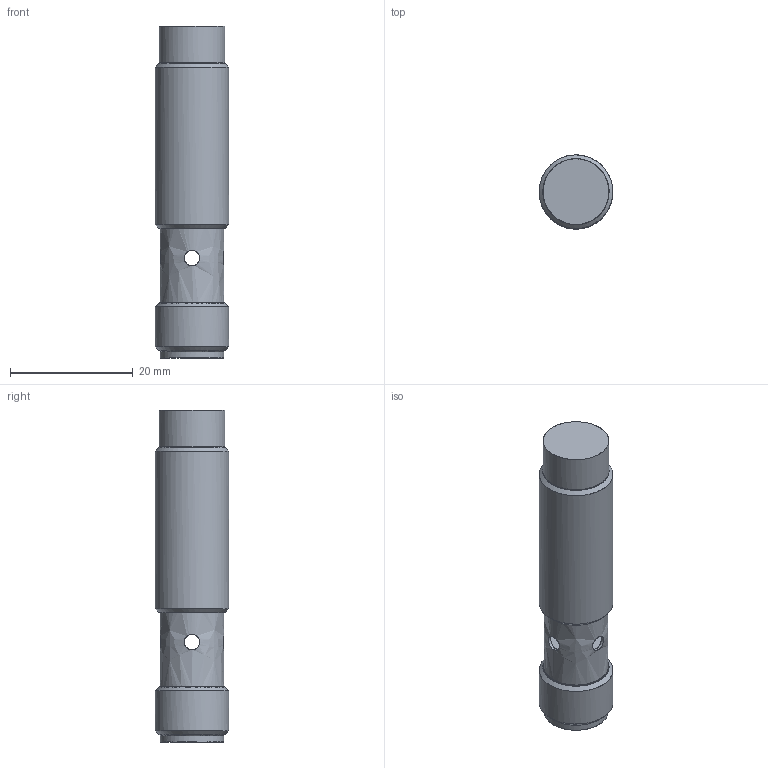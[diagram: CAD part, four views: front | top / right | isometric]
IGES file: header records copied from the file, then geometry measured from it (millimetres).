
Global section: file name: C:\studi10\studi11\INFRA-IGES\DSD-0279.igs; preprocessor: I-DEAS 3D IGES Translator 13; date: 20091214.170213; units: millimetre
Bounding box: 11.99 x 11.99 x 54 mm (x, y, z)
Surface area: 6327.7 mm2 (no closed solid volume)
Topology: 0 solids, 0 shells, 105 faces, 804 edges, 708 vertices
Faces by surface type: bspline 105
